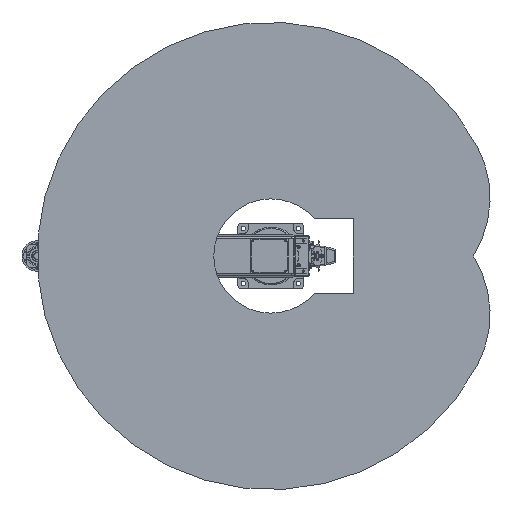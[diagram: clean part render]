
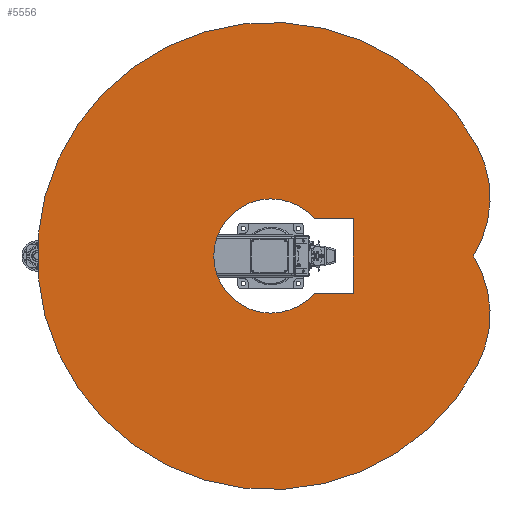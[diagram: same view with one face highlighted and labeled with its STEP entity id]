
A CAD part, front view. The second image highlights one B-rep face of the part: STEP entity #5556.
In plain terms, the highlighted planar face has unit normal (0, -1, 0).
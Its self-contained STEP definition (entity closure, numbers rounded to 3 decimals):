
#5556 = ADVANCED_FACE( '', ( #12627, #12628 ), #12629, .F. );
#12627 = FACE_BOUND( '', #21578, .T. );
#12628 = FACE_OUTER_BOUND( '', #21579, .T. );
#12629 = PLANE( '', #21580 );
#21578 = EDGE_LOOP( '', ( #37841, #37842, #37843, #37844 ) );
#21579 = EDGE_LOOP( '', ( #37845, #37846, #37847 ) );
#21580 = AXIS2_PLACEMENT_3D( '', #37848, #37849, #37850 );
#37841 = ORIENTED_EDGE( '', *, *, #50197, .T. );
#37842 = ORIENTED_EDGE( '', *, *, #52149, .T. );
#37843 = ORIENTED_EDGE( '', *, *, #52150, .T. );
#37844 = ORIENTED_EDGE( '', *, *, #52151, .T. );
#37845 = ORIENTED_EDGE( '', *, *, #52152, .F. );
#37846 = ORIENTED_EDGE( '', *, *, #49538, .F. );
#37847 = ORIENTED_EDGE( '', *, *, #47938, .F. );
#37848 = CARTESIAN_POINT( '', ( 105.631, 0., 198.663 ) );
#37849 = DIRECTION( '', ( 0., 1., 0. ) );
#37850 = DIRECTION( '', ( 0., 0., 1. ) );
#47938 = EDGE_CURVE( '', #57150, #57151, #57152, .T. );
#49538 = EDGE_CURVE( '', #57151, #59803, #59804, .T. );
#50197 = EDGE_CURVE( '', #60789, #60790, #60791, .T. );
#52149 = EDGE_CURVE( '', #60790, #63538, #63539, .T. );
#52150 = EDGE_CURVE( '', #63538, #63540, #63541, .T. );
#52151 = EDGE_CURVE( '', #63540, #60789, #63542, .T. );
#52152 = EDGE_CURVE( '', #59803, #57150, #63543, .T. );
#57150 = VERTEX_POINT( '', #70674 );
#57151 = VERTEX_POINT( '', #70675 );
#57152 = CIRCLE( '', #70676, 850. );
#59803 = VERTEX_POINT( '', #75009 );
#59804 = CIRCLE( '', #75010, 400. );
#60789 = VERTEX_POINT( '', #76672 );
#60790 = VERTEX_POINT( '', #76673 );
#60791 = LINE( '', #76674, #76675 );
#63538 = VERTEX_POINT( '', #81509 );
#63539 = CIRCLE( '', #81510, 207.8 );
#63540 = VERTEX_POINT( '', #81511 );
#63541 = LINE( '', #81512, #81513 );
#63542 = LINE( '', #81514, #81515 );
#63543 = CIRCLE( '', #81516, 400. );
#70674 = CARTESIAN_POINT( '', ( 399.051, 0., 750.505 ) );
#70675 = CARTESIAN_POINT( '', ( -399.051, 0., 750.505 ) );
#70676 = AXIS2_PLACEMENT_3D( '', #87643, #87644, #87645 );
#75009 = CARTESIAN_POINT( '', ( 0., 0., 736.985 ) );
#75010 = AXIS2_PLACEMENT_3D( '', #89889, #89890, #89891 );
#76672 = CARTESIAN_POINT( '', ( 135., 0., 300. ) );
#76673 = CARTESIAN_POINT( '', ( 135., 0., 157.974 ) );
#76674 = CARTESIAN_POINT( '', ( 135., 0., 300. ) );
#76675 = VECTOR( '', #90607, 1000. );
#81509 = CARTESIAN_POINT( '', ( -135., 0., 157.974 ) );
#81510 = AXIS2_PLACEMENT_3D( '', #92691, #92692, #92693 );
#81511 = CARTESIAN_POINT( '', ( -135., 0., 300. ) );
#81512 = CARTESIAN_POINT( '', ( -135., 0., 157.974 ) );
#81513 = VECTOR( '', #92694, 1000. );
#81514 = CARTESIAN_POINT( '', ( -135., 0., 300. ) );
#81515 = VECTOR( '', #92695, 1000. );
#81516 = AXIS2_PLACEMENT_3D( '', #92696, #92697, #92698 );
#87643 = CARTESIAN_POINT( '', ( 0., 0., 0. ) );
#87644 = DIRECTION( '', ( 0., 1., 0. ) );
#87645 = DIRECTION( '', ( 1., 0., 0. ) );
#89889 = CARTESIAN_POINT( '', ( -211.262, 0., 397.326 ) );
#89890 = DIRECTION( '', ( 0., 1., 0. ) );
#89891 = DIRECTION( '', ( 1., 0., 0. ) );
#90607 = DIRECTION( '', ( 0., 0., -1. ) );
#92691 = CARTESIAN_POINT( '', ( 0., 0., 0. ) );
#92692 = DIRECTION( '', ( 0., 1., 0. ) );
#92693 = DIRECTION( '', ( 1., 0., 0. ) );
#92694 = DIRECTION( '', ( 0., 0., 1. ) );
#92695 = DIRECTION( '', ( 1., 0., 0. ) );
#92696 = CARTESIAN_POINT( '', ( 211.262, 0., 397.326 ) );
#92697 = DIRECTION( '', ( 0., 1., 0. ) );
#92698 = DIRECTION( '', ( 1., 0., 0. ) );
